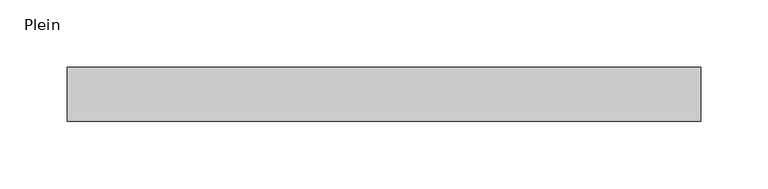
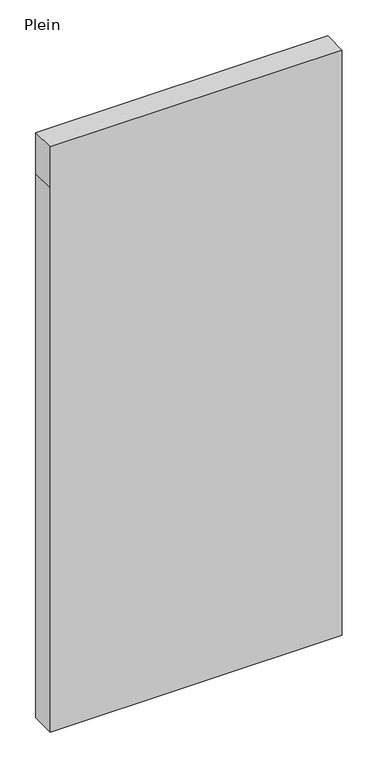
"""IFC4 building model written with IfcOpenShell, lengths in millimetres: plate geometry, Panneau système : Plein."""

from ifc_helpers import new_model, si_unit, frame, origin, place, context, project, spatial, polyline, outline, extrude, source, transform, mapped, element, save


def plein_6e437026(model_context):
    return source(origin(), model_context, "Body", "SweptSolid", [
        extrude(outline(polyline([(0.0, -235.5), (0.0, 235.5), (926.9604608, 235.5), (996.9604608, 235.5), (996.9604608, -235.5), (926.9604608, -235.5), (0.0, -235.5)])), frame((0.0, 5.0, 0.0), z_axis=(0.0, 1.0, 0.0), x_axis=(0.0, 0.0, 1.0)), (0.0, 0.0, 1.0), 40.0),
    ])


if __name__ == "__main__":
    model = new_model("IFC4")
    model_context = context("Model", 3, world=origin())
    ifc_project = project(units=[si_unit("LENGTHUNIT", "METRE", prefix="MILLI")], contexts=[model_context])
    site = spatial("IfcSite", under=ifc_project)
    building = spatial("IfcBuilding", under=site)
    placement = place(None, origin())
    plein_shape = plein_6e437026(model_context)
    element("IfcPlate", 1, ObjectType="Panneau système : Plein", at=placement, inside=building, context=model_context, shape_type="MappedRepresentation", body=[
        mapped(plein_shape, transform((0.0, 0.0, 0.0), x_axis=(1.0, 0.0, 0.0), y_axis=(0.0, 1.0, 0.0), z_axis=(0.0, 0.0, 1.0))),
    ])
    save(model, "model.ifc")
